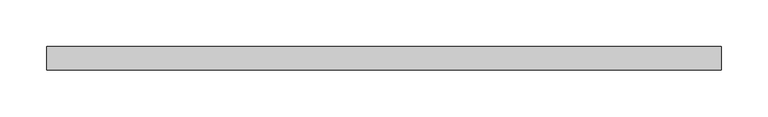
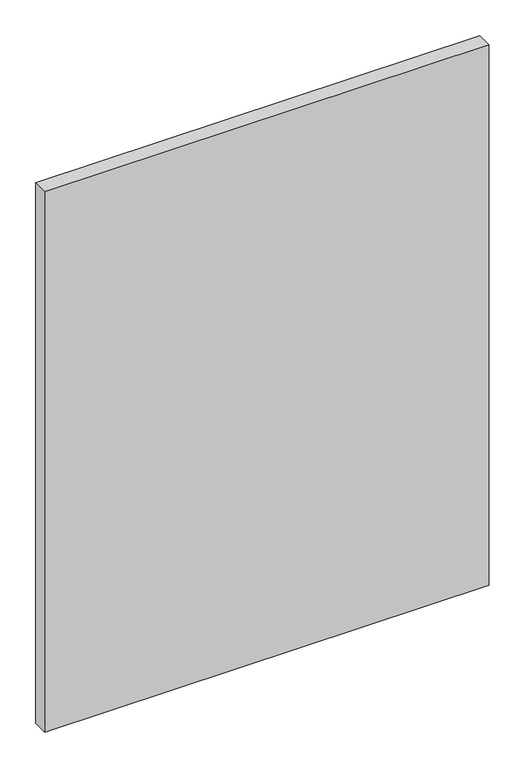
"""IFC4 building model written with IfcOpenShell, lengths in millimetres: plate geometry, Системная панель : ADSK_Cтеклопакет_25."""

from ifc_helpers import new_model, si_unit, origin, origin_with_axes, place, context, project, spatial, polyline, outline, extrude, source, transform, mapped, element, save


def plate_4e533238(model_context):
    return source(origin(), model_context, "Body", "SweptSolid", [
        extrude(outline(polyline([(360.0, -12.5), (-360.0, -12.5), (-360.0, 12.5), (360.0, 12.5), (360.0, -12.5)])), origin_with_axes(), (0.0, 0.0, 1.0), 925.0),
    ])


if __name__ == "__main__":
    model = new_model("IFC4")
    model_context = context("Model", 3, world=origin())
    ifc_project = project(units=[si_unit("LENGTHUNIT", "METRE", prefix="MILLI")], contexts=[model_context])
    site = spatial("IfcSite", under=ifc_project)
    building = spatial("IfcBuilding", under=site)
    placement = place(None, origin())
    plate_shape = plate_4e533238(model_context)
    element("IfcPlate", 1, ObjectType="Системная панель : ADSK_Cтеклопакет_25", at=placement, inside=building, context=model_context, shape_type="MappedRepresentation", body=[
        mapped(plate_shape, transform((0.0, 0.0, 0.0), x_axis=(1.0, 0.0, 0.0), y_axis=(0.0, 1.0, 0.0), z_axis=(0.0, 0.0, 1.0))),
    ])
    save(model, "model.ifc")
